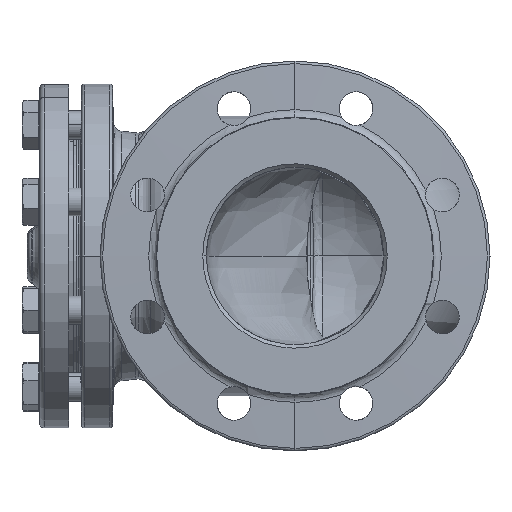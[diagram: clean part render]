
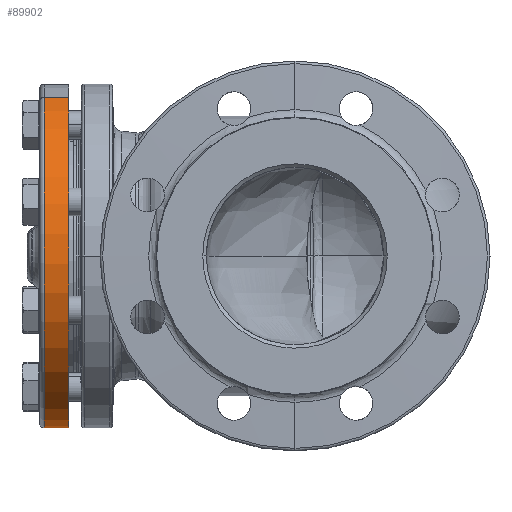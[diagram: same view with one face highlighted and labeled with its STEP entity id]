
A CAD part, left-side view. The second image highlights one B-rep face of the part: STEP entity #89902.
In plain terms, the highlighted cylindrical face has radius 97 mm (diameter 194 mm), a partial arc.
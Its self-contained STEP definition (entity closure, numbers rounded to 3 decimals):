
#3871 = ORIENTED_EDGE ( 'NONE', *, *, #101408, .F. ) ;
#7013 = CYLINDRICAL_SURFACE ( 'NONE', #10048, 97. ) ;
#10048 = AXIS2_PLACEMENT_3D ( 'NONE', #16625, #24578, #33640 ) ;
#13717 = DIRECTION ( 'NONE',  ( 0., 1., 0. ) ) ;
#16625 = CARTESIAN_POINT ( 'NONE',  ( 175., 151., 0. ) ) ;
#22430 = EDGE_CURVE ( 'NONE', #73562, #99377, #90090, .T. ) ;
#22619 = EDGE_CURVE ( 'NONE', #80683, #103500, #26310, .T. ) ;
#24578 = DIRECTION ( 'NONE',  ( 0., 1., 0. ) ) ;
#24755 = LINE ( 'NONE', #103503, #46549 ) ;
#26310 = CIRCLE ( 'NONE', #57064, 97. ) ;
#33640 = DIRECTION ( 'NONE',  ( -0.383, 0., 0.924 ) ) ;
#33726 = CARTESIAN_POINT ( 'NONE',  ( 175., 127.5, 0. ) ) ;
#33888 = CARTESIAN_POINT ( 'NONE',  ( 212.12, 141.5, -89.616 ) ) ;
#38188 = ORIENTED_EDGE ( 'NONE', *, *, #22430, .T. ) ;
#38286 = EDGE_CURVE ( 'NONE', #99377, #103500, #90760, .T. ) ;
#46549 = VECTOR ( 'NONE', #76298, 1000. ) ;
#49875 = EDGE_LOOP ( 'NONE', ( #3871, #38188, #111363, #88590 ) ) ;
#51554 = VECTOR ( 'NONE', #13717, 1000. ) ;
#57064 = AXIS2_PLACEMENT_3D ( 'NONE', #102861, #58120, #85250 ) ;
#58120 = DIRECTION ( 'NONE',  ( 0., 1., 0. ) ) ;
#59785 = DIRECTION ( 'NONE',  ( 0., 1., 0. ) ) ;
#65823 = CARTESIAN_POINT ( 'NONE',  ( 137.88, 151., 89.616 ) ) ;
#73562 = VERTEX_POINT ( 'NONE', #85438 ) ;
#73733 = CARTESIAN_POINT ( 'NONE',  ( 137.88, 141.5, 89.616 ) ) ;
#74243 = CARTESIAN_POINT ( 'NONE',  ( 137.88, 127.5, 89.616 ) ) ;
#75099 = DIRECTION ( 'NONE',  ( -0.383, 0., 0.924 ) ) ;
#76298 = DIRECTION ( 'NONE',  ( 0., 1., 0. ) ) ;
#80683 = VERTEX_POINT ( 'NONE', #33888 ) ;
#85250 = DIRECTION ( 'NONE',  ( -0.383, 0., 0.924 ) ) ;
#85438 = CARTESIAN_POINT ( 'NONE',  ( 212.12, 127.5, -89.616 ) ) ;
#88590 = ORIENTED_EDGE ( 'NONE', *, *, #22619, .F. ) ;
#89902 = ADVANCED_FACE ( 'NONE', ( #110182 ), #7013, .T. ) ;
#90090 = CIRCLE ( 'NONE', #104596, 97. ) ;
#90760 = LINE ( 'NONE', #65823, #51554 ) ;
#99377 = VERTEX_POINT ( 'NONE', #74243 ) ;
#101408 = EDGE_CURVE ( 'NONE', #73562, #80683, #24755, .T. ) ;
#102861 = CARTESIAN_POINT ( 'NONE',  ( 175., 141.5, 0. ) ) ;
#103500 = VERTEX_POINT ( 'NONE', #73733 ) ;
#103503 = CARTESIAN_POINT ( 'NONE',  ( 212.12, 151., -89.616 ) ) ;
#104596 = AXIS2_PLACEMENT_3D ( 'NONE', #33726, #59785, #75099 ) ;
#110182 = FACE_OUTER_BOUND ( 'NONE', #49875, .T. ) ;
#111363 = ORIENTED_EDGE ( 'NONE', *, *, #38286, .T. ) ;
